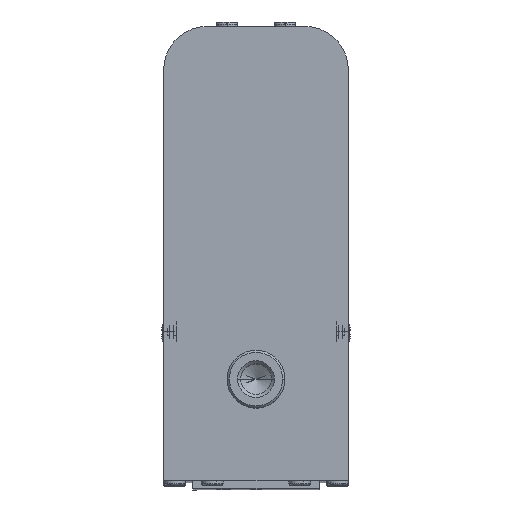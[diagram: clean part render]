
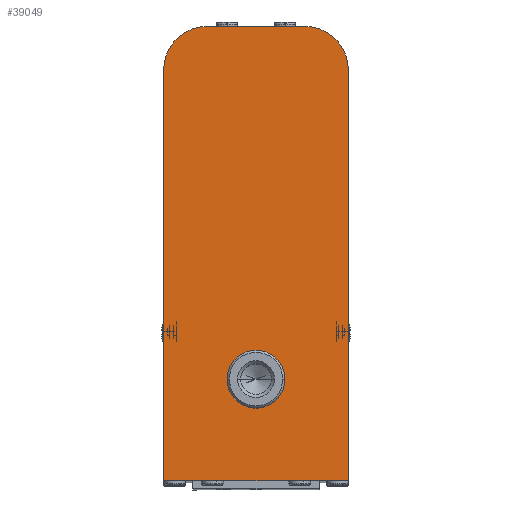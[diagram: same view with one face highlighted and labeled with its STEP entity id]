
A CAD part, top view. The second image highlights one B-rep face of the part: STEP entity #39049.
In plain terms, the highlighted planar face has unit normal (0, 0, 1).
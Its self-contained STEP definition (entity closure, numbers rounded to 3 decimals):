
#173 = CARTESIAN_POINT ( 'NONE',  ( 12.7, 38.1, 0. ) ) ;
#906 = DIRECTION ( 'NONE',  ( 0., -1., 0. ) ) ;
#1827 = DIRECTION ( 'NONE',  ( 0., 0., 1. ) ) ;
#2796 = DIRECTION ( 'NONE',  ( -1., 0., 0. ) ) ;
#5831 = CIRCLE ( 'NONE', #18615, 6. ) ;
#6345 = DIRECTION ( 'NONE',  ( 0., 0., 1. ) ) ;
#7322 = CIRCLE ( 'NONE', #32261, 3.969 ) ;
#7365 = CIRCLE ( 'NONE', #32307, 6. ) ;
#7474 = LINE ( 'NONE', #173, #31441 ) ;
#8087 = CARTESIAN_POINT ( 'NONE',  ( 0., 0., 0. ) ) ;
#11011 = CIRCLE ( 'NONE', #20966, 3.969 ) ;
#11595 = EDGE_LOOP ( 'NONE', ( #28881, #11633 ) ) ;
#11633 = ORIENTED_EDGE ( 'NONE', *, *, #43046, .F. ) ;
#12006 = ORIENTED_EDGE ( 'NONE', *, *, #22766, .T. ) ;
#12594 = CARTESIAN_POINT ( 'NONE',  ( -8.7, -24.4, 0. ) ) ;
#12820 = CARTESIAN_POINT ( 'NONE',  ( -6.7, 32.1, 0. ) ) ;
#13474 = AXIS2_PLACEMENT_3D ( 'NONE', #8087, #35747, #41957 ) ;
#14774 = PLANE ( 'NONE',  #13474 ) ;
#15057 = VECTOR ( 'NONE', #906, 1000. ) ;
#15616 = EDGE_CURVE ( 'NONE', #30968, #43752, #5831, .T. ) ;
#15824 = EDGE_CURVE ( 'NONE', #37666, #27589, #16157, .T. ) ;
#15950 = DIRECTION ( 'NONE',  ( 0., 0., 1. ) ) ;
#15991 = VERTEX_POINT ( 'NONE', #30415 ) ;
#16157 = LINE ( 'NONE', #12594, #24292 ) ;
#16913 = VERTEX_POINT ( 'NONE', #36187 ) ;
#17090 = DIRECTION ( 'NONE',  ( 0., 0., 1. ) ) ;
#18496 = LINE ( 'NONE', #18719, #15057 ) ;
#18615 = AXIS2_PLACEMENT_3D ( 'NONE', #12820, #15950, #29322 ) ;
#18715 = DIRECTION ( 'NONE',  ( -1., 0., 0. ) ) ;
#18719 = CARTESIAN_POINT ( 'NONE',  ( -12.7, 38.1, 0. ) ) ;
#18727 = EDGE_CURVE ( 'NONE', #16913, #37666, #7474, .T. ) ;
#19603 = LINE ( 'NONE', #36103, #22726 ) ;
#20858 = DIRECTION ( 'NONE',  ( 0., -1., 0. ) ) ;
#20966 = AXIS2_PLACEMENT_3D ( 'NONE', #43586, #6345, #30201 ) ;
#21504 = CARTESIAN_POINT ( 'NONE',  ( -12.7, 32.1, 0. ) ) ;
#21900 = EDGE_CURVE ( 'NONE', #29398, #15991, #11011, .T. ) ;
#22726 = VECTOR ( 'NONE', #18715, 1000. ) ;
#22766 = EDGE_CURVE ( 'NONE', #16913, #32805, #7365, .T. ) ;
#24292 = VECTOR ( 'NONE', #2796, 1000. ) ;
#25863 = CARTESIAN_POINT ( 'NONE',  ( 0., -10.446, 0. ) ) ;
#25968 = EDGE_LOOP ( 'NONE', ( #33013, #39786, #33922, #12006, #28756, #28415 ) ) ;
#27589 = VERTEX_POINT ( 'NONE', #31906 ) ;
#28415 = ORIENTED_EDGE ( 'NONE', *, *, #15616, .T. ) ;
#28756 = ORIENTED_EDGE ( 'NONE', *, *, #32540, .T. ) ;
#28881 = ORIENTED_EDGE ( 'NONE', *, *, #21900, .F. ) ;
#29048 = FACE_BOUND ( 'NONE', #11595, .T. ) ;
#29322 = DIRECTION ( 'NONE',  ( 1., 0., 0. ) ) ;
#29398 = VERTEX_POINT ( 'NONE', #37875 ) ;
#30201 = DIRECTION ( 'NONE',  ( 1., 0., 0. ) ) ;
#30415 = CARTESIAN_POINT ( 'NONE',  ( 3.969, -10.446, 0. ) ) ;
#30968 = VERTEX_POINT ( 'NONE', #34588 ) ;
#31441 = VECTOR ( 'NONE', #20858, 1000. ) ;
#31906 = CARTESIAN_POINT ( 'NONE',  ( -12.7, -24.4, 0. ) ) ;
#32261 = AXIS2_PLACEMENT_3D ( 'NONE', #25863, #1827, #35252 ) ;
#32307 = AXIS2_PLACEMENT_3D ( 'NONE', #40732, #17090, #43872 ) ;
#32540 = EDGE_CURVE ( 'NONE', #32805, #30968, #19603, .T. ) ;
#32805 = VERTEX_POINT ( 'NONE', #34711 ) ;
#33013 = ORIENTED_EDGE ( 'NONE', *, *, #36623, .T. ) ;
#33922 = ORIENTED_EDGE ( 'NONE', *, *, #18727, .F. ) ;
#34588 = CARTESIAN_POINT ( 'NONE',  ( -6.7, 38.1, 0. ) ) ;
#34711 = CARTESIAN_POINT ( 'NONE',  ( 6.7, 38.1, 0. ) ) ;
#35076 = FACE_OUTER_BOUND ( 'NONE', #25968, .T. ) ;
#35252 = DIRECTION ( 'NONE',  ( 1., 0., 0. ) ) ;
#35747 = DIRECTION ( 'NONE',  ( 0., 0., 1. ) ) ;
#36103 = CARTESIAN_POINT ( 'NONE',  ( 12.7, 38.1, 0. ) ) ;
#36187 = CARTESIAN_POINT ( 'NONE',  ( 12.7, 32.1, 0. ) ) ;
#36623 = EDGE_CURVE ( 'NONE', #43752, #27589, #18496, .T. ) ;
#37666 = VERTEX_POINT ( 'NONE', #41000 ) ;
#37875 = CARTESIAN_POINT ( 'NONE',  ( -3.969, -10.446, 0. ) ) ;
#39049 = ADVANCED_FACE ( 'NONE', ( #35076, #29048 ), #14774, .T. ) ;
#39786 = ORIENTED_EDGE ( 'NONE', *, *, #15824, .F. ) ;
#40732 = CARTESIAN_POINT ( 'NONE',  ( 6.7, 32.1, 0. ) ) ;
#41000 = CARTESIAN_POINT ( 'NONE',  ( 12.7, -24.4, 0. ) ) ;
#41957 = DIRECTION ( 'NONE',  ( 1., 0., 0. ) ) ;
#43046 = EDGE_CURVE ( 'NONE', #15991, #29398, #7322, .T. ) ;
#43586 = CARTESIAN_POINT ( 'NONE',  ( 0., -10.446, 0. ) ) ;
#43752 = VERTEX_POINT ( 'NONE', #21504 ) ;
#43872 = DIRECTION ( 'NONE',  ( 1., 0., 0. ) ) ;
